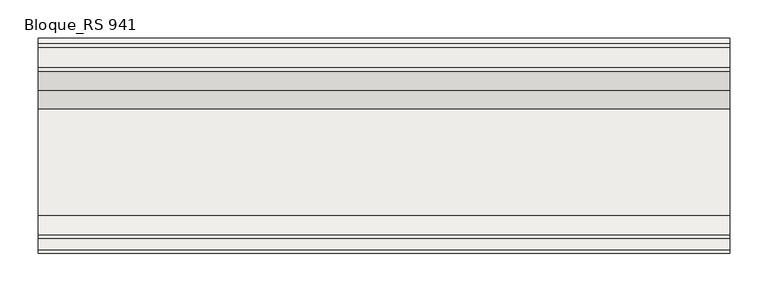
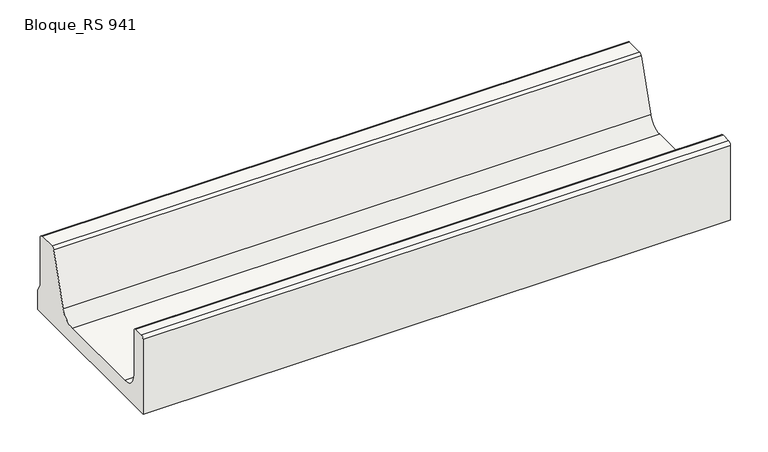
"""IFC4 building model written with IfcOpenShell, lengths in millimetres: slab geometry, ROSA GRES_RS 941 : Bloque_RS 941."""

from ifc_helpers import new_model, si_unit, point, frame, frame_2d, origin, place, context, project, spatial, polyline, circle_curve, trimmed, segment, composite_curve, outline, extrude, source, transform, mapped, element, save


def bloque_rs_941_035bc7f0(model_context):
    return source(origin(), model_context, "Body", "SweptSolid", [
        extrude(outline(composite_curve([segment(polyline([(-290.7950654, 126.0), (-276.7901448, 126.0)]), True, "CONTINUOUS"), segment(trimmed(circle_curve(frame_2d((-276.7873115, 121.0029619)), 4.9970389), [point((-276.7901448, 126.0))], [point((-271.7950654, 121.221769))], False, "CARTESIAN"), True, "CONTINUOUS"), segment(polyline([(-271.7950654, 121.221769), (-271.7950654, 50.0)]), True, "CONTINUOUS"), segment(trimmed(circle_curve(frame_2d((-246.8549987, 49.9398968)), 24.9401391), [point((-271.7950654, 50.0))], [point((-246.7450654, 25.0))], True, "CARTESIAN"), True, "CONTINUOUS"), segment(polyline([(-246.7450654, 25.0), (-107.8238571, 25.0)]), True, "CONTINUOUS"), segment(trimmed(circle_curve(frame_2d((-107.6378199, 49.7467022)), 24.7474015), [point((-107.8238571, 25.0))], [point((-83.9689438, 42.5204875))], True, "CARTESIAN"), True, "CONTINUOUS"), segment(polyline([(-83.9689438, 42.5204875), (-58.8933079, 122.4959025)]), True, "CONTINUOUS"), segment(trimmed(circle_curve(frame_2d((-54.1351224, 121.0174239)), 4.9825925), [point((-58.8933079, 122.4959025))], [point((-54.1223252, 126.0))], False, "CARTESIAN"), True, "CONTINUOUS"), segment(polyline([(-54.1223252, 126.0), (-27.7946272, 126.0)]), True, "CONTINUOUS"), segment(trimmed(circle_curve(frame_2d((-27.7946272, 121.0)), 5.0), [point((-27.7946272, 126.0))], [point((-22.7946272, 121.0))], False, "CARTESIAN"), True, "CONTINUOUS"), segment(polyline([(-22.7946272, 121.0), (-22.7946272, 44.0), (-15.7946269, 32.0012714), (-15.7946269, 0.0), (-295.7950654, 0.0), (-295.7950654, 121.0)]), True, "CONTINUOUS"), segment(trimmed(circle_curve(frame_2d((-290.8048832, 121.0098178)), 4.9901918), [point((-295.7950654, 121.0))], [point((-290.7950654, 126.0))], False, "CARTESIAN"), True, "CONTINUOUS")], self_intersect=False)), frame((0.0, 0.0, 0.0), z_axis=(1.0, 0.0, 0.0), x_axis=(0.0, 1.0, 0.0)), (0.0, 0.0, 1.0), 900.0),
    ])


if __name__ == "__main__":
    model = new_model("IFC4")
    model_context = context("Model", 3, world=origin())
    ifc_project = project(units=[si_unit("LENGTHUNIT", "METRE", prefix="MILLI")], contexts=[model_context])
    site = spatial("IfcSite", under=ifc_project)
    building = spatial("IfcBuilding", under=site)
    placement = place(None, origin())
    bloque_rs_941_shape = bloque_rs_941_035bc7f0(model_context)
    element("IfcSlab", 1, ObjectType="ROSA GRES_RS 941 : Bloque_RS 941", at=placement, inside=building, context=model_context, shape_type="MappedRepresentation", body=[
        mapped(bloque_rs_941_shape, transform((0.0, 0.0, 0.0), x_axis=(1.0, 0.0, 0.0), y_axis=(0.0, 1.0, 0.0), z_axis=(0.0, 0.0, 1.0))),
    ])
    save(model, "model.ifc")
